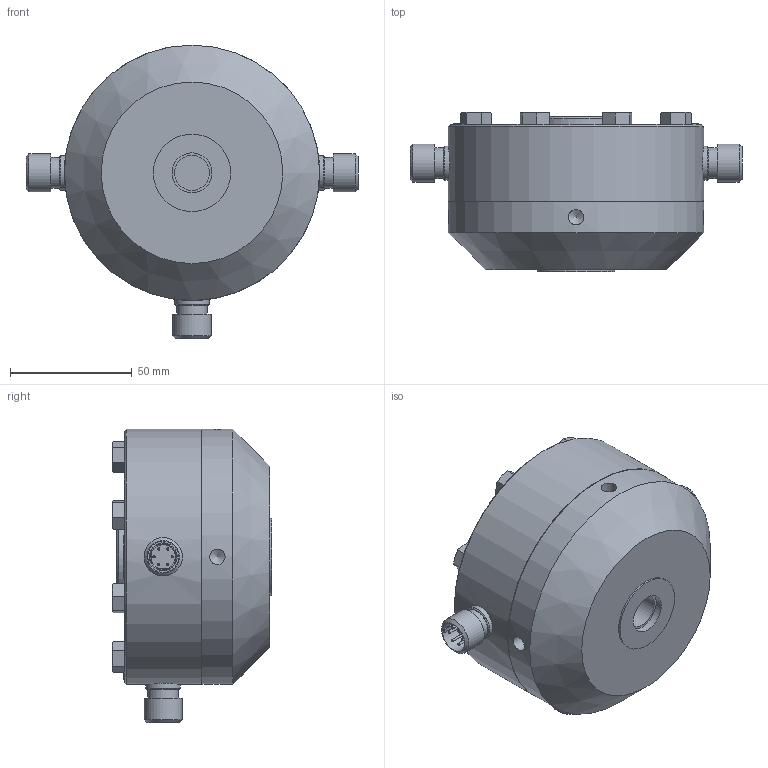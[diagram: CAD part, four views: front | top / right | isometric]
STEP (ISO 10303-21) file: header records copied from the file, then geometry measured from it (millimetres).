
FILE_DESCRIPTION (( 'STEP AP203' ), '1' );
FILE_NAME ('80240.STEP', '2019-06-07T13:53:41', ( '' ), ( '' ), 'SwSTEP 2.0', 'SolidWorks 2019', '' );
FILE_SCHEMA (( 'CONFIG_CONTROL_DESIGN' ));
Length unit declared in the file: inch
Products named in the file (1): 80240
Bounding box: 136.24 x 65.25 x 120.49 mm (x, y, z)
Volume: 476656.4 mm3; surface area: 54606.9 mm2
Topology: 1 solids, 17 shells, 437 faces, 1053 edges, 671 vertices
Faces by surface type: plane 214, cone 87, cylinder 83, bspline 53
Full cylindrical faces by diameter (mm): 0.924 x18, 3.175 x1, 5.41 x8, 6.35 x13, 7.144 x8, 12.573 x3, 12.7 x3, 14.122 x3, 14.351 x1, 14.453 x1, 15.723 x3, 16.383 x2, 31.75 x1, 34.036 x1, 34.29 x1, 74.422 x1, 74.701 x1, 104.75 x2
Entity records: 12868 total; most frequent: CARTESIAN_POINT 4067, DIRECTION 1686, ORIENTED_EDGE 1662, EDGE_CURVE 831, AXIS2_PLACEMENT_3D 647, EDGE_LOOP 620, VERTEX_POINT 595, FACE_OUTER_BOUND 508
